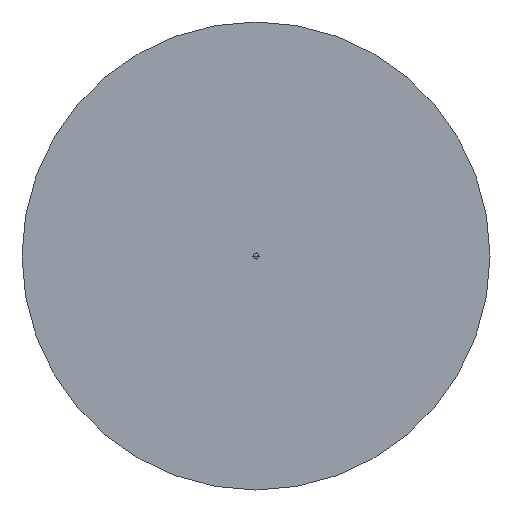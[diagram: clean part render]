
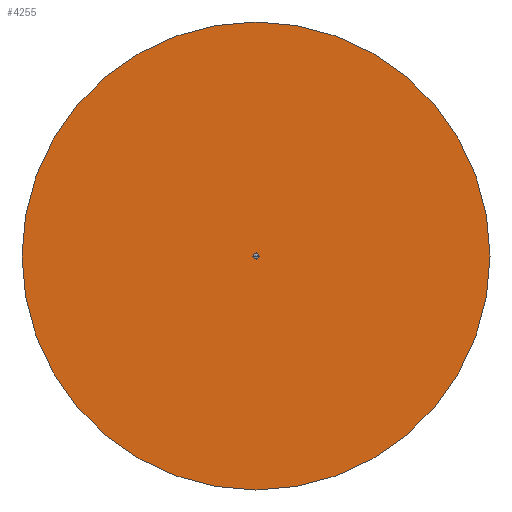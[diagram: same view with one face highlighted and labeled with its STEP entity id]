
A CAD part, front view. The second image highlights one B-rep face of the part: STEP entity #4255.
In plain terms, the highlighted planar face has unit normal (0, -1, 0).
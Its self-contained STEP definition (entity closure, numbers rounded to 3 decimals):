
#3035=CARTESIAN_POINT('',(70.,-27.5,0.0));
#3036=VERTEX_POINT('',#3035);
#3052=CARTESIAN_POINT('',(-70.,-27.5,0.));
#3053=VERTEX_POINT('',#3052);
#3060=CARTESIAN_POINT('',(0.0,-27.5,0.0));
#3061=DIRECTION('',(0.0,-1.0,0.0));
#3062=DIRECTION('',(1.0,0.0,0.0));
#3063=AXIS2_PLACEMENT_3D('',#3060,#3061,#3062);
#3064=CIRCLE('',#3063,70.);
#3065=EDGE_CURVE('',#3036,#3053,#3064,.T.);
#3586=CARTESIAN_POINT('',(0.9,-27.5,0.0));
#3587=VERTEX_POINT('',#3586);
#3603=CARTESIAN_POINT('',(-0.9,-27.5,0.));
#3604=VERTEX_POINT('',#3603);
#3611=CARTESIAN_POINT('',(0.0,-27.5,0.0));
#3612=DIRECTION('',(0.0,-1.0,0.0));
#3613=DIRECTION('',(1.0,0.0,0.0));
#3614=AXIS2_PLACEMENT_3D('',#3611,#3612,#3613);
#3615=CIRCLE('',#3614,0.9);
#3616=EDGE_CURVE('',#3604,#3587,#3615,.T.);
#3835=CARTESIAN_POINT('',(0.0,-27.5,0.0));
#3836=DIRECTION('',(0.0,-1.0,0.0));
#3837=DIRECTION('',(1.0,0.0,0.0));
#3838=AXIS2_PLACEMENT_3D('',#3835,#3836,#3837);
#3839=CIRCLE('',#3838,0.9);
#3840=EDGE_CURVE('',#3587,#3604,#3839,.T.);
#4230=CARTESIAN_POINT('',(0.0,-27.5,0.0));
#4231=DIRECTION('',(0.0,-1.0,0.0));
#4232=DIRECTION('',(1.0,0.0,0.0));
#4233=AXIS2_PLACEMENT_3D('',#4230,#4231,#4232);
#4234=CIRCLE('',#4233,70.);
#4235=EDGE_CURVE('',#3053,#3036,#4234,.T.);
#4242=CARTESIAN_POINT('',(35.45,-27.5,0.0));
#4243=DIRECTION('',(0.0,-1.0,0.0));
#4244=DIRECTION('',(0.0,0.0,-1.0));
#4245=AXIS2_PLACEMENT_3D('',#4242,#4243,#4244);
#4246=PLANE('',#4245);
#4247=ORIENTED_EDGE('',*,*,#3065,.T.);
#4248=ORIENTED_EDGE('',*,*,#4235,.T.);
#4249=EDGE_LOOP('',(#4247,#4248));
#4250=FACE_OUTER_BOUND('',#4249,.T.);
#4251=ORIENTED_EDGE('',*,*,#3840,.F.);
#4252=ORIENTED_EDGE('',*,*,#3616,.F.);
#4253=EDGE_LOOP('',(#4251,#4252));
#4254=FACE_BOUND('',#4253,.T.);
#4255=ADVANCED_FACE('',(#4250,#4254),#4246,.T.);
